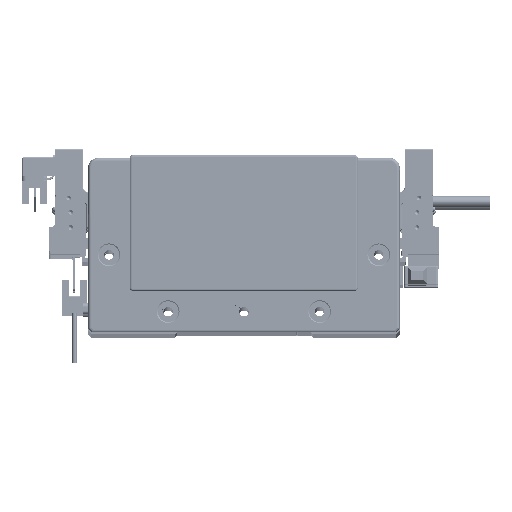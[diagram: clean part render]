
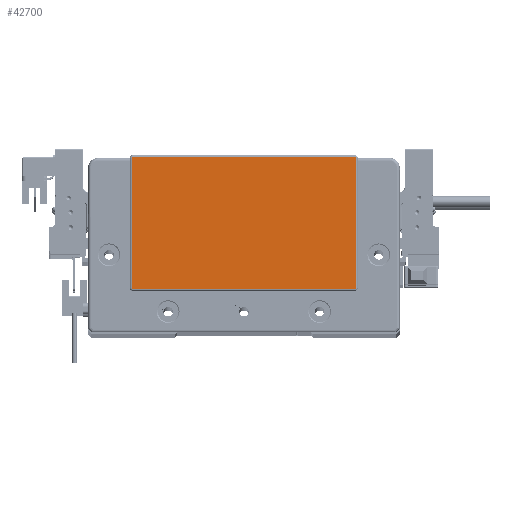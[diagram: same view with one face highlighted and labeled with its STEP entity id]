
A CAD part, top view. The second image highlights one B-rep face of the part: STEP entity #42700.
In plain terms, the highlighted planar face has unit normal (0, 0, 1) as drawn and (0, 0, -1) by its records, which use the part's own axes.
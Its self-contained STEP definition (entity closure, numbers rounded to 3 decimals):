
#410 = CARTESIAN_POINT ( 'NONE',  ( 0., 0., -2. ) ) ;
#1716 = ORIENTED_EDGE ( 'NONE', *, *, #10484, .T. ) ;
#4877 = CARTESIAN_POINT ( 'NONE',  ( -59.25, 45.3, -2. ) ) ;
#7015 = CARTESIAN_POINT ( 'NONE',  ( 59.25, 45.3, -2. ) ) ;
#7426 = CARTESIAN_POINT ( 'NONE',  ( -58.75, -23.8, -2. ) ) ;
#10484 = EDGE_CURVE ( 'NONE', #14347, #34235, #16389, .T. ) ;
#11527 = VECTOR ( 'NONE', #89493, 1000. ) ;
#13336 = ORIENTED_EDGE ( 'NONE', *, *, #14875, .T. ) ;
#13888 = ORIENTED_EDGE ( 'NONE', *, *, #47938, .T. ) ;
#13895 = FACE_OUTER_BOUND ( 'NONE', #15668, .T. ) ;
#14347 = VERTEX_POINT ( 'NONE', #27320 ) ;
#14875 = EDGE_CURVE ( 'NONE', #91060, #97199, #81987, .T. ) ;
#15668 = EDGE_LOOP ( 'NONE', ( #13888, #19014, #1716, #23551, #13336, #23899, #50256, #78802 ) ) ;
#16389 = LINE ( 'NONE', #7426, #25482 ) ;
#16958 = DIRECTION ( 'NONE',  ( -1., 0., 0. ) ) ;
#16976 = VERTEX_POINT ( 'NONE', #75043 ) ;
#17594 = CIRCLE ( 'NONE', #55839, 0.5 ) ;
#18077 = EDGE_CURVE ( 'NONE', #16976, #20050, #62058, .T. ) ;
#19005 = CARTESIAN_POINT ( 'NONE',  ( -58.75, -23.3, -2. ) ) ;
#19014 = ORIENTED_EDGE ( 'NONE', *, *, #91085, .T. ) ;
#20050 = VERTEX_POINT ( 'NONE', #7015 ) ;
#21277 = EDGE_CURVE ( 'NONE', #29257, #16976, #49372, .T. ) ;
#22721 = CIRCLE ( 'NONE', #75257, 0.5 ) ;
#23530 = CARTESIAN_POINT ( 'NONE',  ( 59.25, -23.3, -2. ) ) ;
#23551 = ORIENTED_EDGE ( 'NONE', *, *, #52801, .T. ) ;
#23899 = ORIENTED_EDGE ( 'NONE', *, *, #65408, .T. ) ;
#25115 = DIRECTION ( 'NONE',  ( -1., 0., 0. ) ) ;
#25482 = VECTOR ( 'NONE', #46806, 1000. ) ;
#26035 = DIRECTION ( 'NONE',  ( -1., 0., 0. ) ) ;
#27320 = CARTESIAN_POINT ( 'NONE',  ( 58.75, -23.8, -2. ) ) ;
#29257 = VERTEX_POINT ( 'NONE', #32467 ) ;
#29485 = CARTESIAN_POINT ( 'NONE',  ( 59.25, -23.3, -2. ) ) ;
#30517 = DIRECTION ( 'NONE',  ( 0., -1., 0. ) ) ;
#30846 = PLANE ( 'NONE',  #43008 ) ;
#32467 = CARTESIAN_POINT ( 'NONE',  ( -58.75, 45.8, -2. ) ) ;
#32908 = CARTESIAN_POINT ( 'NONE',  ( 58.75, -23.3, -2. ) ) ;
#34235 = VERTEX_POINT ( 'NONE', #67721 ) ;
#40347 = VECTOR ( 'NONE', #50328, 1000. ) ;
#40964 = DIRECTION ( 'NONE',  ( 0., 0., -1. ) ) ;
#42700 = ADVANCED_FACE ( 'NONE', ( #13895 ), #30846, .T. ) ;
#43008 = AXIS2_PLACEMENT_3D ( 'NONE', #410, #75709, #44316 ) ;
#43574 = VERTEX_POINT ( 'NONE', #29485 ) ;
#44316 = DIRECTION ( 'NONE',  ( -1., 0., 0. ) ) ;
#46806 = DIRECTION ( 'NONE',  ( -1., 0., 0. ) ) ;
#47938 = EDGE_CURVE ( 'NONE', #20050, #43574, #70851, .T. ) ;
#49211 = CIRCLE ( 'NONE', #96975, 0.5 ) ;
#49372 = LINE ( 'NONE', #72775, #40347 ) ;
#50256 = ORIENTED_EDGE ( 'NONE', *, *, #21277, .T. ) ;
#50328 = DIRECTION ( 'NONE',  ( 1., 0., 0. ) ) ;
#52801 = EDGE_CURVE ( 'NONE', #34235, #91060, #22721, .T. ) ;
#54086 = DIRECTION ( 'NONE',  ( 0., 0., -1. ) ) ;
#54585 = DIRECTION ( 'NONE',  ( -1., 0., 0. ) ) ;
#54881 = CARTESIAN_POINT ( 'NONE',  ( -59.25, -23.3, -2. ) ) ;
#55035 = CARTESIAN_POINT ( 'NONE',  ( -58.75, 45.3, -2. ) ) ;
#55839 = AXIS2_PLACEMENT_3D ( 'NONE', #55035, #71960, #25115 ) ;
#60428 = AXIS2_PLACEMENT_3D ( 'NONE', #90495, #54086, #54585 ) ;
#62058 = CIRCLE ( 'NONE', #60428, 0.5 ) ;
#63850 = DIRECTION ( 'NONE',  ( 0., 0., -1. ) ) ;
#65408 = EDGE_CURVE ( 'NONE', #97199, #29257, #17594, .T. ) ;
#67721 = CARTESIAN_POINT ( 'NONE',  ( -58.75, -23.8, -2. ) ) ;
#70851 = LINE ( 'NONE', #23530, #97050 ) ;
#71960 = DIRECTION ( 'NONE',  ( 0., 0., -1. ) ) ;
#72775 = CARTESIAN_POINT ( 'NONE',  ( 58.75, 45.8, -2. ) ) ;
#75043 = CARTESIAN_POINT ( 'NONE',  ( 58.75, 45.8, -2. ) ) ;
#75257 = AXIS2_PLACEMENT_3D ( 'NONE', #19005, #40964, #26035 ) ;
#75709 = DIRECTION ( 'NONE',  ( 0., 0., -1. ) ) ;
#78802 = ORIENTED_EDGE ( 'NONE', *, *, #18077, .T. ) ;
#81987 = LINE ( 'NONE', #90950, #11527 ) ;
#89493 = DIRECTION ( 'NONE',  ( 0., 1., 0. ) ) ;
#90495 = CARTESIAN_POINT ( 'NONE',  ( 58.75, 45.3, -2. ) ) ;
#90950 = CARTESIAN_POINT ( 'NONE',  ( -59.25, 45.3, -2. ) ) ;
#91060 = VERTEX_POINT ( 'NONE', #54881 ) ;
#91085 = EDGE_CURVE ( 'NONE', #43574, #14347, #49211, .T. ) ;
#96975 = AXIS2_PLACEMENT_3D ( 'NONE', #32908, #63850, #16958 ) ;
#97050 = VECTOR ( 'NONE', #30517, 1000. ) ;
#97199 = VERTEX_POINT ( 'NONE', #4877 ) ;
